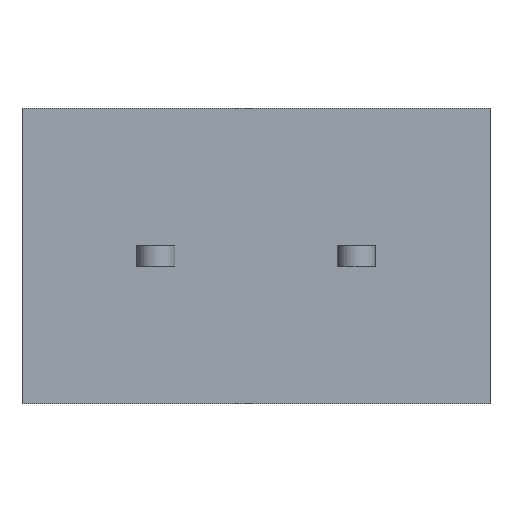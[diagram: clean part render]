
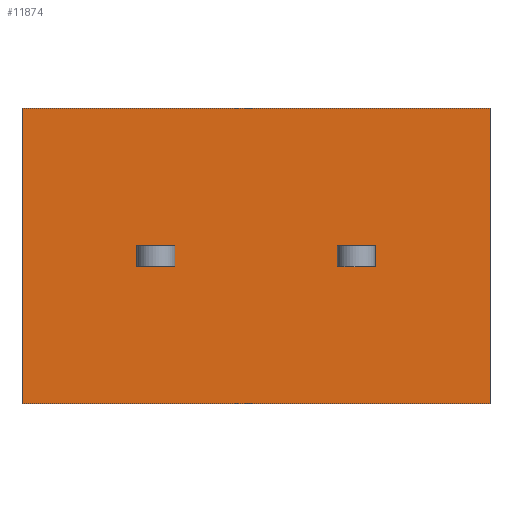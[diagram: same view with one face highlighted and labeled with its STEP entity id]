
A CAD part, front view. The second image highlights one B-rep face of the part: STEP entity #11874.
In plain terms, the highlighted planar face has unit normal (0, -1, 0).
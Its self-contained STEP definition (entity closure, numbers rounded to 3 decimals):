
#745=VECTOR('',#13426,1.);
#748=VECTOR('',#13432,1.);
#764=VECTOR('',#13465,1.);
#767=VECTOR('',#13473,1.);
#1159=VECTOR('',#14004,1.);
#1292=VECTOR('',#14316,1.);
#1303=VECTOR('',#14340,1.);
#1307=VECTOR('',#14345,1.);
#1308=VECTOR('',#14346,1.);
#1309=VECTOR('',#14347,1.);
#1310=VECTOR('',#14348,1.);
#1311=VECTOR('',#14349,1.);
#2053=LINE('',#15924,#745);
#2056=LINE('',#15933,#748);
#2072=LINE('',#15972,#764);
#2075=LINE('',#15980,#767);
#2467=LINE('',#17466,#1159);
#2600=LINE('',#17828,#1292);
#2611=LINE('',#17856,#1303);
#2615=LINE('',#17863,#1307);
#2616=LINE('',#17866,#1308);
#2617=LINE('',#17868,#1309);
#2618=LINE('',#17870,#1310);
#2619=LINE('',#17871,#1311);
#3352=PLANE('',#12603);
#3953=VERTEX_POINT('',#15925);
#3954=VERTEX_POINT('',#15926);
#3957=VERTEX_POINT('',#15934);
#3969=VERTEX_POINT('',#15973);
#4303=VERTEX_POINT('',#17465);
#4304=VERTEX_POINT('',#17467);
#4426=VERTEX_POINT('',#17827);
#4427=VERTEX_POINT('',#17829);
#4438=VERTEX_POINT('',#17864);
#4439=VERTEX_POINT('',#17865);
#4440=VERTEX_POINT('',#17867);
#4441=VERTEX_POINT('',#17869);
#5266=EDGE_CURVE('',#3953,#3954,#2053,.T.);
#5270=EDGE_CURVE('',#3954,#3957,#2056,.T.);
#5294=EDGE_CURVE('',#3957,#3969,#2072,.T.);
#5298=EDGE_CURVE('',#3969,#3953,#2075,.T.);
#5796=EDGE_CURVE('',#4304,#4303,#2467,.T.);
#5978=EDGE_CURVE('',#4427,#4426,#2600,.T.);
#5992=EDGE_CURVE('',#4427,#4303,#2611,.T.);
#5996=EDGE_CURVE('',#4438,#4439,#2615,.T.);
#5997=EDGE_CURVE('',#4440,#4438,#2616,.T.);
#5998=EDGE_CURVE('',#4441,#4440,#2617,.T.);
#5999=EDGE_CURVE('',#4439,#4441,#2618,.T.);
#6000=EDGE_CURVE('',#4426,#4304,#2619,.T.);
#8805=ORIENTED_EDGE('',*,*,#5294,.F.);
#8806=ORIENTED_EDGE('',*,*,#5270,.F.);
#8807=ORIENTED_EDGE('',*,*,#5266,.F.);
#8808=ORIENTED_EDGE('',*,*,#5298,.F.);
#8809=ORIENTED_EDGE('',*,*,#5996,.F.);
#8810=ORIENTED_EDGE('',*,*,#5997,.F.);
#8811=ORIENTED_EDGE('',*,*,#5998,.F.);
#8812=ORIENTED_EDGE('',*,*,#5999,.F.);
#8813=ORIENTED_EDGE('',*,*,#6000,.T.);
#8814=ORIENTED_EDGE('',*,*,#5796,.T.);
#8815=ORIENTED_EDGE('',*,*,#5992,.F.);
#8816=ORIENTED_EDGE('',*,*,#5978,.T.);
#10510=EDGE_LOOP('',(#8805,#8806,#8807,#8808));
#10511=EDGE_LOOP('',(#8809,#8810,#8811,#8812));
#10512=EDGE_LOOP('',(#8813,#8814,#8815,#8816));
#11210=FACE_BOUND('',#10510,.T.);
#11211=FACE_BOUND('',#10511,.T.);
#11212=FACE_BOUND('',#10512,.T.);
#11874=ADVANCED_FACE('',(#11210,#11211,#11212),#3352,.T.);
#12603=AXIS2_PLACEMENT_3D('',#17862,#14344,$);
#13426=DIRECTION('',(1.,0.,0.));
#13432=DIRECTION('',(0.,0.,1.));
#13465=DIRECTION('',(-1.,0.,0.));
#13473=DIRECTION('',(0.,0.,-1.));
#14004=DIRECTION('',(0.,0.,1.));
#14316=DIRECTION('',(0.,0.,-1.));
#14340=DIRECTION('',(1.,0.,0.));
#14344=DIRECTION('',(0.,-1.,0.));
#14345=DIRECTION('',(-1.,0.,0.));
#14346=DIRECTION('',(0.,0.,1.));
#14347=DIRECTION('',(1.,0.,0.));
#14348=DIRECTION('',(0.,0.,-1.));
#14349=DIRECTION('',(1.,0.,0.));
#15924=CARTESIAN_POINT('',(13.825,0.,-0.5));
#15925=CARTESIAN_POINT('',(14.95,0.,-0.5));
#15926=CARTESIAN_POINT('',(16.75,0.,-0.5));
#15933=CARTESIAN_POINT('',(16.75,0.,1.75));
#15934=CARTESIAN_POINT('',(16.75,0.,0.5));
#15972=CARTESIAN_POINT('',(13.825,0.,0.5));
#15973=CARTESIAN_POINT('',(14.95,0.,0.5));
#15980=CARTESIAN_POINT('',(14.95,0.,1.75));
#17465=CARTESIAN_POINT('',(22.2,0.,7.));
#17466=CARTESIAN_POINT('',(22.2,0.,7.));
#17467=CARTESIAN_POINT('',(22.2,0.,-7.));
#17827=CARTESIAN_POINT('',(0.,0.,-7.));
#17828=CARTESIAN_POINT('',(0.,0.,7.));
#17829=CARTESIAN_POINT('',(0.,0.,7.));
#17856=CARTESIAN_POINT('',(0.,0.,7.));
#17862=CARTESIAN_POINT('',(0.,0.,0.));
#17863=CARTESIAN_POINT('',(4.325,0.,0.5));
#17864=CARTESIAN_POINT('',(7.25,0.,0.5));
#17865=CARTESIAN_POINT('',(5.45,0.,0.5));
#17866=CARTESIAN_POINT('',(7.25,0.,1.75));
#17867=CARTESIAN_POINT('',(7.25,0.,-0.5));
#17868=CARTESIAN_POINT('',(4.325,0.,-0.5));
#17869=CARTESIAN_POINT('',(5.45,0.,-0.5));
#17870=CARTESIAN_POINT('',(5.45,0.,1.75));
#17871=CARTESIAN_POINT('',(0.,0.,-7.));
